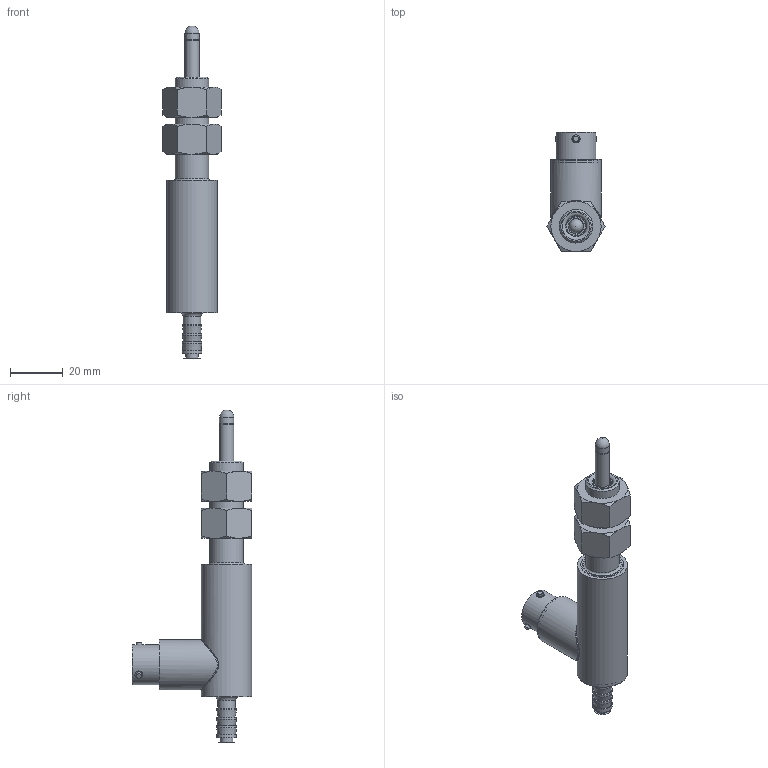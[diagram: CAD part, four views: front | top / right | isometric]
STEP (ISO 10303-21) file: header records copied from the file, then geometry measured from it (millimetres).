
FILE_DESCRIPTION(/* description */ (''),/* implementation_level */ '2;1');
FILE_NAME(/* name */ 'F:\GHRA SERIES\GHRA-750-A-XXXX\GHRA-750-A-050\GHRA-750-A-050 ASSEMBLY.iam.stp',/* time_stamp */ '2021-11-17T12:45:22-05:00',/* author */ ('J. Nielson'),/* organization */ (''),/* preprocessor_version */ 'ST-DEVELOPER v18.1',/* originating_system */ 'Autodesk Inventor 2022',/* authorisation */ '');
FILE_SCHEMA (('AUTOMOTIVE_DESIGN { 1 0 10303 214 3 1 1 }'));
Length unit declared in the file: inch
Products named in the file (4): GHRA-750-A-050 ASSEMBLY; GHRA-750-A-050 HOUSING_Shrinkwrap_1; GHRA-750-A-050 SHAFT_SW; AS 2465 - 1/2  UNF
Assembly tree (4 placements, depth 2):
  GHRA-750-A-050 ASSEMBLY
    GHRA-750-A-050 HOUSING_Shrinkwrap_1
    GHRA-750-A-050 SHAFT_SW
    AS 2465 - 1/2  UNF  x2
Bounding box: 22 x 45.24 x 125.6 mm (x, y, z)
Volume: 17484.7 mm3; surface area: 19869.7 mm2
Topology: 17 solids, 17 shells, 223 faces, 442 edges, 284 vertices
Faces by surface type: plane 89, cylinder 74, cone 47, bspline 7, torus 5, sphere 1
Full cylindrical faces by diameter (mm): 0.762 x12, 1.905 x1, 2.032 x3, 2.845 x2, 3.048 x3, 4.762 x1, 4.826 x2, 5.334 x4, 5.397 x1, 6 x1, 6.731 x1, 7.493 x4, 7.671 x2, 7.874 x1, 11.328 x2, 12.7 x1, 13.208 x1, 14.986 x1, 15.748 x2, 16.51 x1, 17.018 x1, 17.069 x1, 17.78 x1, 18.034 x1, 18.415 x6, 19.05 x2
Entity records: 7537 total; most frequent: CARTESIAN_POINT 2899, DIRECTION 950, ORIENTED_EDGE 780, AXIS2_PLACEMENT_3D 407, EDGE_CURVE 390, EDGE_LOOP 259, VERTEX_POINT 255, CIRCLE 206
